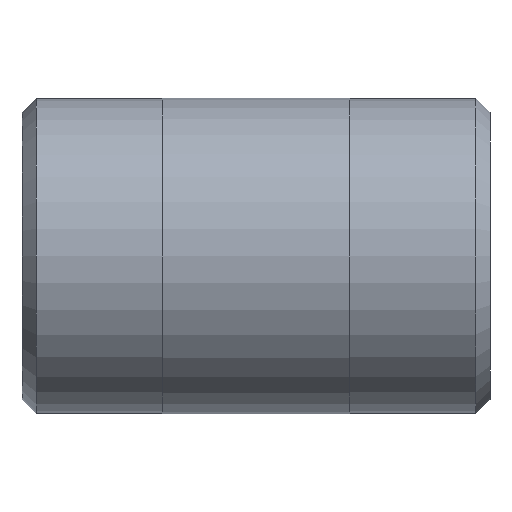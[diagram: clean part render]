
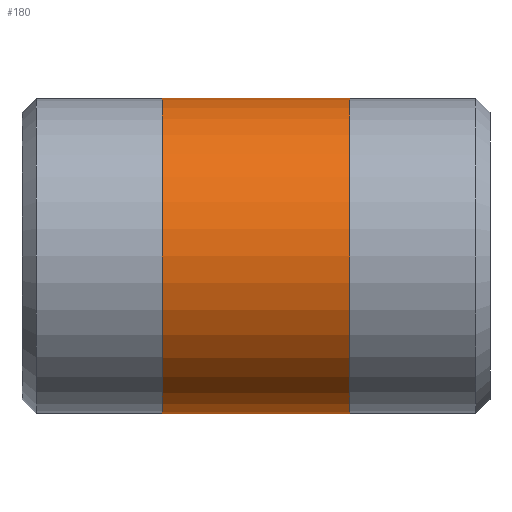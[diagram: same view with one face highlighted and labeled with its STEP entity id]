
A CAD part, left-side view. The second image highlights one B-rep face of the part: STEP entity #180.
In plain terms, the highlighted cylindrical face has radius 8.572 mm (diameter 17.145 mm), a full revolution.
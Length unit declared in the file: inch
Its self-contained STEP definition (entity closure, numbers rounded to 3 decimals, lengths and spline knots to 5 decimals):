
#25=CYLINDRICAL_SURFACE('',#220,0.3375);
#34=FACE_OUTER_BOUND('',#47,.T.);
#47=EDGE_LOOP('',(#155,#156,#157,#158,#159,#160));
#55=LINE('',#338,#61);
#61=VECTOR('',#283,0.3375);
#77=CIRCLE('',#218,0.3375);
#78=CIRCLE('',#219,0.3375);
#79=CIRCLE('',#221,0.3375);
#80=CIRCLE('',#222,0.3375);
#95=VERTEX_POINT('',#329);
#96=VERTEX_POINT('',#330);
#97=VERTEX_POINT('',#334);
#98=VERTEX_POINT('',#335);
#117=EDGE_CURVE('',#95,#96,#77,.T.);
#118=EDGE_CURVE('',#96,#95,#78,.T.);
#119=EDGE_CURVE('',#97,#98,#79,.T.);
#120=EDGE_CURVE('',#98,#97,#80,.T.);
#121=EDGE_CURVE('',#98,#96,#55,.T.);
#155=ORIENTED_EDGE('',*,*,#119,.F.);
#156=ORIENTED_EDGE('',*,*,#120,.F.);
#157=ORIENTED_EDGE('',*,*,#121,.T.);
#158=ORIENTED_EDGE('',*,*,#118,.T.);
#159=ORIENTED_EDGE('',*,*,#117,.T.);
#160=ORIENTED_EDGE('',*,*,#121,.F.);
#180=ADVANCED_FACE('',(#34),#25,.T.);
#218=AXIS2_PLACEMENT_3D('',#331,#273,#274);
#219=AXIS2_PLACEMENT_3D('',#332,#275,#276);
#220=AXIS2_PLACEMENT_3D('',#333,#277,#278);
#221=AXIS2_PLACEMENT_3D('',#336,#279,#280);
#222=AXIS2_PLACEMENT_3D('',#337,#281,#282);
#273=DIRECTION('center_axis',(0.,-1.,0.));
#274=DIRECTION('ref_axis',(1.,0.,0.));
#275=DIRECTION('center_axis',(0.,-1.,0.));
#276=DIRECTION('ref_axis',(1.,0.,0.));
#277=DIRECTION('center_axis',(0.,-1.,0.));
#278=DIRECTION('ref_axis',(0.,0.,-1.));
#279=DIRECTION('center_axis',(0.,-1.,0.));
#280=DIRECTION('ref_axis',(1.,0.,0.));
#281=DIRECTION('center_axis',(0.,-1.,0.));
#282=DIRECTION('ref_axis',(1.,0.,0.));
#283=DIRECTION('',(0.,1.,0.));
#329=CARTESIAN_POINT('',(0.,0.7,-0.3375));
#330=CARTESIAN_POINT('',(0.,0.7,0.3375));
#331=CARTESIAN_POINT('Origin',(0.,0.7,0.));
#332=CARTESIAN_POINT('Origin',(0.,0.7,0.));
#333=CARTESIAN_POINT('Origin',(0.,0.5,0.));
#334=CARTESIAN_POINT('',(0.,0.3,-0.3375));
#335=CARTESIAN_POINT('',(0.,0.3,0.3375));
#336=CARTESIAN_POINT('Origin',(0.,0.3,0.));
#337=CARTESIAN_POINT('Origin',(0.,0.3,0.));
#338=CARTESIAN_POINT('',(0.,0.5,0.3375));
